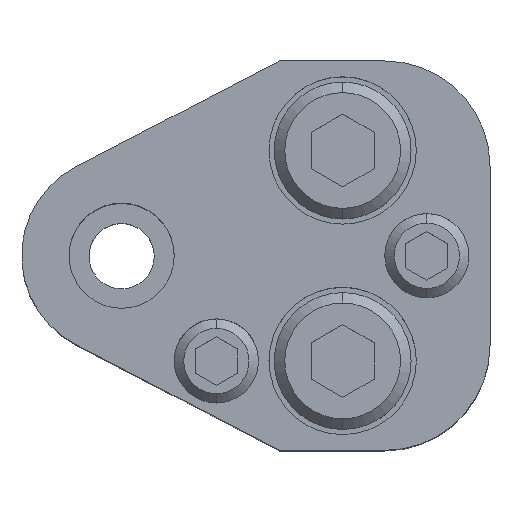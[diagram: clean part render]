
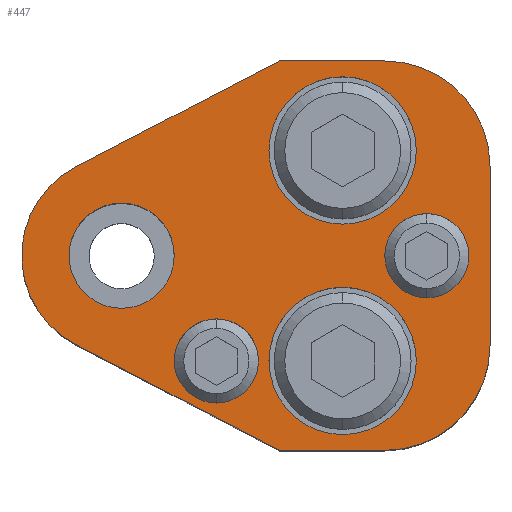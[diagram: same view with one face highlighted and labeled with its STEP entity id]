
A CAD part, top view. The second image highlights one B-rep face of the part: STEP entity #447.
In plain terms, the highlighted planar face has unit normal (0, 0, 1).
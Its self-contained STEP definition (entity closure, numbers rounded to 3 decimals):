
#206=FACE_BOUND('',#807,.T.);
#207=FACE_BOUND('',#808,.T.);
#208=FACE_BOUND('',#809,.T.);
#209=FACE_BOUND('',#810,.T.);
#210=FACE_BOUND('',#811,.T.);
#211=FACE_BOUND('',#812,.T.);
#269=CIRCLE('',#2664,10.);
#271=CIRCLE('',#2668,10.);
#274=CIRCLE('',#2673,9.5);
#275=CIRCLE('',#2678,4.);
#277=CIRCLE('',#2681,4.);
#279=CIRCLE('',#2684,4.);
#281=CIRCLE('',#2687,4.);
#291=CIRCLE('',#2702,7.);
#292=CIRCLE('',#2703,7.);
#293=CIRCLE('',#2704,7.);
#294=CIRCLE('',#2705,7.);
#295=CIRCLE('',#2706,5.);
#296=CIRCLE('',#2707,5.);
#447=ADVANCED_FACE('',(#206,#207,#208,#209,#210,#211),#578,.T.);
#578=PLANE('',#2708);
#807=EDGE_LOOP('',(#1148,#1149,#1150,#1151,#1152,#1153,#1154,#1155));
#808=EDGE_LOOP('',(#1156,#1157));
#809=EDGE_LOOP('',(#1158,#1159));
#810=EDGE_LOOP('',(#1160,#1161));
#811=EDGE_LOOP('',(#1162,#1163));
#812=EDGE_LOOP('',(#1164,#1165));
#1148=ORIENTED_EDGE('',*,*,#1952,.T.);
#1149=ORIENTED_EDGE('',*,*,#1961,.T.);
#1150=ORIENTED_EDGE('',*,*,#1935,.T.);
#1151=ORIENTED_EDGE('',*,*,#1939,.T.);
#1152=ORIENTED_EDGE('',*,*,#1942,.T.);
#1153=ORIENTED_EDGE('',*,*,#1945,.T.);
#1154=ORIENTED_EDGE('',*,*,#1948,.T.);
#1155=ORIENTED_EDGE('',*,*,#1956,.T.);
#1156=ORIENTED_EDGE('',*,*,#1991,.F.);
#1157=ORIENTED_EDGE('',*,*,#1992,.F.);
#1158=ORIENTED_EDGE('',*,*,#1993,.F.);
#1159=ORIENTED_EDGE('',*,*,#1994,.F.);
#1160=ORIENTED_EDGE('',*,*,#1977,.F.);
#1161=ORIENTED_EDGE('',*,*,#1973,.F.);
#1162=ORIENTED_EDGE('',*,*,#1971,.F.);
#1163=ORIENTED_EDGE('',*,*,#1967,.F.);
#1164=ORIENTED_EDGE('',*,*,#1995,.T.);
#1165=ORIENTED_EDGE('',*,*,#1996,.T.);
#1686=VERTEX_POINT('',#3857);
#1687=VERTEX_POINT('',#3859);
#1690=VERTEX_POINT('',#3866);
#1692=VERTEX_POINT('',#3872);
#1694=VERTEX_POINT('',#3878);
#1696=VERTEX_POINT('',#3884);
#1699=VERTEX_POINT('',#3892);
#1700=VERTEX_POINT('',#3894);
#1708=VERTEX_POINT('',#3926);
#1709=VERTEX_POINT('',#3927);
#1712=VERTEX_POINT('',#3938);
#1713=VERTEX_POINT('',#3939);
#1724=VERTEX_POINT('',#3974);
#1725=VERTEX_POINT('',#3975);
#1726=VERTEX_POINT('',#3978);
#1727=VERTEX_POINT('',#3979);
#1728=VERTEX_POINT('',#3982);
#1729=VERTEX_POINT('',#3983);
#1935=EDGE_CURVE('',#1687,#1686,#2269,.T.);
#1939=EDGE_CURVE('',#1686,#1690,#269,.T.);
#1942=EDGE_CURVE('',#1690,#1692,#2274,.T.);
#1945=EDGE_CURVE('',#1692,#1694,#271,.T.);
#1948=EDGE_CURVE('',#1694,#1696,#2278,.T.);
#1952=EDGE_CURVE('',#1700,#1699,#274,.T.);
#1956=EDGE_CURVE('',#1696,#1700,#2284,.T.);
#1961=EDGE_CURVE('',#1699,#1687,#2289,.T.);
#1967=EDGE_CURVE('',#1708,#1709,#275,.T.);
#1971=EDGE_CURVE('',#1709,#1708,#277,.T.);
#1973=EDGE_CURVE('',#1712,#1713,#279,.T.);
#1977=EDGE_CURVE('',#1713,#1712,#281,.T.);
#1991=EDGE_CURVE('',#1724,#1725,#291,.T.);
#1992=EDGE_CURVE('',#1725,#1724,#292,.T.);
#1993=EDGE_CURVE('',#1726,#1727,#293,.T.);
#1994=EDGE_CURVE('',#1727,#1726,#294,.T.);
#1995=EDGE_CURVE('',#1728,#1729,#295,.T.);
#1996=EDGE_CURVE('',#1729,#1728,#296,.T.);
#2269=LINE('',#3858,#2467);
#2274=LINE('',#3873,#2472);
#2278=LINE('',#3885,#2476);
#2284=LINE('',#3901,#2482);
#2289=LINE('',#3909,#2487);
#2467=VECTOR('',#3061,1.);
#2472=VECTOR('',#3074,1.);
#2476=VECTOR('',#3086,1.);
#2482=VECTOR('',#3100,1.);
#2487=VECTOR('',#3107,1.);
#2664=AXIS2_PLACEMENT_3D('',#3867,#3067,#3068);
#2668=AXIS2_PLACEMENT_3D('',#3879,#3079,#3080);
#2673=AXIS2_PLACEMENT_3D('',#3893,#3093,#3094);
#2678=AXIS2_PLACEMENT_3D('',#3925,#3116,#3117);
#2681=AXIS2_PLACEMENT_3D('',#3934,#3124,#3125);
#2684=AXIS2_PLACEMENT_3D('',#3937,#3130,#3131);
#2687=AXIS2_PLACEMENT_3D('',#3946,#3138,#3139);
#2702=AXIS2_PLACEMENT_3D('',#3973,#3172,#3173);
#2703=AXIS2_PLACEMENT_3D('',#3976,#3174,#3175);
#2704=AXIS2_PLACEMENT_3D('',#3977,#3176,#3177);
#2705=AXIS2_PLACEMENT_3D('',#3980,#3178,#3179);
#2706=AXIS2_PLACEMENT_3D('',#3981,#3180,#3181);
#2707=AXIS2_PLACEMENT_3D('',#3984,#3182,#3183);
#2708=AXIS2_PLACEMENT_3D('',#3985,#3184,#3185);
#3061=DIRECTION('',(1.,0.,0.));
#3067=DIRECTION('',(0.,0.,1.));
#3068=DIRECTION('',(-0.707,0.707,0.));
#3074=DIRECTION('',(0.,1.,0.));
#3079=DIRECTION('',(0.,0.,1.));
#3080=DIRECTION('',(-0.707,-0.707,0.));
#3086=DIRECTION('',(-1.,0.,0.));
#3093=DIRECTION('',(0.,0.,1.));
#3094=DIRECTION('',(0.,1.,0.));
#3100=DIRECTION('',(-0.887,-0.461,0.));
#3107=DIRECTION('',(0.887,-0.461,0.));
#3116=DIRECTION('',(0.,0.,1.));
#3117=DIRECTION('',(1.,0.,0.));
#3124=DIRECTION('',(0.,0.,1.));
#3125=DIRECTION('',(-1.,0.,0.));
#3130=DIRECTION('',(0.,0.,1.));
#3131=DIRECTION('',(1.,0.,0.));
#3138=DIRECTION('',(0.,0.,1.));
#3139=DIRECTION('',(-1.,0.,0.));
#3172=DIRECTION('',(0.,0.,1.));
#3173=DIRECTION('',(1.,0.,0.));
#3174=DIRECTION('',(0.,0.,1.));
#3175=DIRECTION('',(-1.,0.,0.));
#3176=DIRECTION('',(0.,0.,1.));
#3177=DIRECTION('',(1.,0.,0.));
#3178=DIRECTION('',(0.,0.,1.));
#3179=DIRECTION('',(-1.,0.,0.));
#3180=DIRECTION('',(0.,0.,-1.));
#3181=DIRECTION('',(-1.,0.,0.));
#3182=DIRECTION('',(0.,0.,-1.));
#3183=DIRECTION('',(1.,0.,0.));
#3184=DIRECTION('',(0.,0.,1.));
#3185=DIRECTION('',(0.887,0.461,0.));
#3857=CARTESIAN_POINT('',(25.,-18.5,35.));
#3858=CARTESIAN_POINT('',(15.,-18.5,35.));
#3859=CARTESIAN_POINT('',(15.,-18.5,35.));
#3866=CARTESIAN_POINT('',(35.,-8.5,35.));
#3867=CARTESIAN_POINT('',(25.,-8.5,35.));
#3872=CARTESIAN_POINT('',(35.,8.5,35.));
#3873=CARTESIAN_POINT('',(35.,-8.5,35.));
#3878=CARTESIAN_POINT('',(25.,18.5,35.));
#3879=CARTESIAN_POINT('',(25.,8.5,35.));
#3884=CARTESIAN_POINT('',(15.,18.5,35.));
#3885=CARTESIAN_POINT('',(15.,18.5,35.));
#3892=CARTESIAN_POINT('',(-4.38,-8.43,35.));
#3893=CARTESIAN_POINT('',(0.,0.,35.));
#3894=CARTESIAN_POINT('',(-4.38,8.43,35.));
#3901=CARTESIAN_POINT('',(15.,18.5,35.));
#3909=CARTESIAN_POINT('',(15.,-18.5,35.));
#3925=CARTESIAN_POINT('',(9.,-10.,35.));
#3926=CARTESIAN_POINT('',(9.,-6.,35.));
#3927=CARTESIAN_POINT('',(9.,-14.,35.));
#3934=CARTESIAN_POINT('',(9.,-10.,35.));
#3937=CARTESIAN_POINT('',(29.,0.,35.));
#3938=CARTESIAN_POINT('',(29.,4.,35.));
#3939=CARTESIAN_POINT('',(29.,-4.,35.));
#3946=CARTESIAN_POINT('',(29.,0.,35.));
#3973=CARTESIAN_POINT('',(21.,-10.,35.));
#3974=CARTESIAN_POINT('',(21.,-3.,35.));
#3975=CARTESIAN_POINT('',(21.,-17.,35.));
#3976=CARTESIAN_POINT('',(21.,-10.,35.));
#3977=CARTESIAN_POINT('',(21.,10.,35.));
#3978=CARTESIAN_POINT('',(21.,17.,35.));
#3979=CARTESIAN_POINT('',(21.,3.,35.));
#3980=CARTESIAN_POINT('',(21.,10.,35.));
#3981=CARTESIAN_POINT('',(0.,0.,35.));
#3982=CARTESIAN_POINT('',(0.,5.,35.));
#3983=CARTESIAN_POINT('',(0.,-5.,35.));
#3984=CARTESIAN_POINT('',(0.,0.,35.));
#3985=CARTESIAN_POINT('',(-4.38,8.43,35.));
